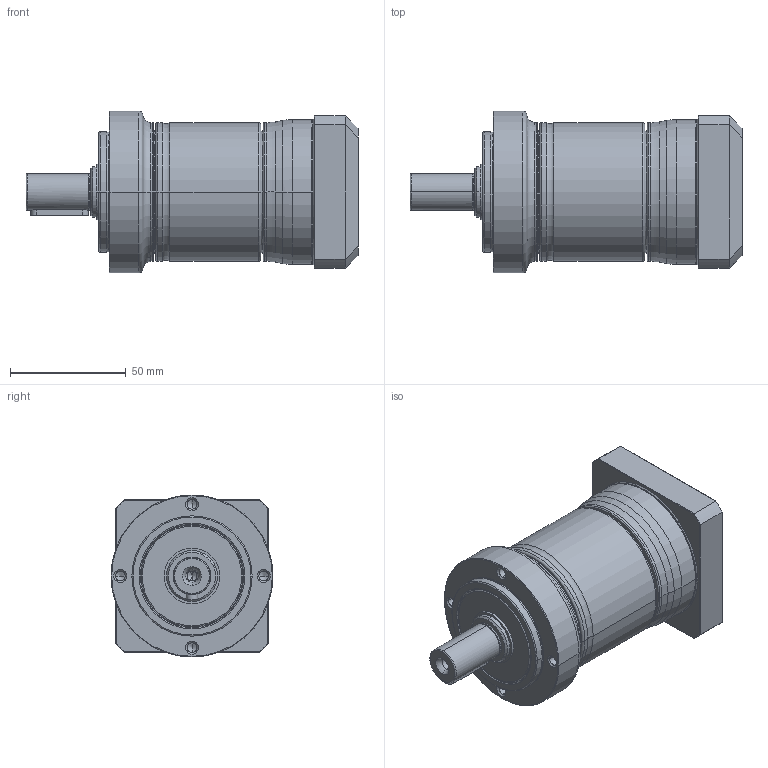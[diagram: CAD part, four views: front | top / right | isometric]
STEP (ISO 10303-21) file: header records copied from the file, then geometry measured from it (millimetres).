
FILE_DESCRIPTION((''),'2;1');
FILE_NAME('PE2-070_2ST_14-P0411300101_ASM','2017-06-01T',('d01943'),(''),'PRO/ENGINEER BY PARAMETRIC TECHNOLOGY CORPORATION, 2008410','PRO/ENGINEER BY PARAMETRIC TECHNOLOGY CORPORATION, 2008410','');
FILE_SCHEMA(('CONFIG_CONTROL_DESIGN'));
Length unit declared in the file: millimetre
Products named in the file (9): P1323210001; P0251200001; P1324200201; P0350201001; P0941202001; P0503300005; P0411300101; P1702300001; PE2-070_2ST_14-P0411300101_ASM
Assembly tree (8 placements, depth 2):
  PE2-070_2ST_14-P0411300101_ASM
    P1323210001
    P0251200001
    P1324200201
    P0350201001
    P0941202001
    P0503300005
    P0411300101
    P1702300001
Bounding box: 143.5 x 70 x 70 mm (x, y, z)
Volume: 254076.6 mm3; surface area: 79462 mm2
Topology: 8 solids, 8 shells, 469 faces, 1032 edges, 592 vertices
Faces by surface type: cylinder 138, cone 136, torus 100, plane 77, bspline 18
Entity records: 17384 total; most frequent: CARTESIAN_POINT 6855, DIRECTION 2397, ORIENTED_EDGE 2000, AXIS2_PLACEMENT_3D 1032, EDGE_CURVE 1000, VERTEX_POINT 592, CIRCLE 564, EDGE_LOOP 530
